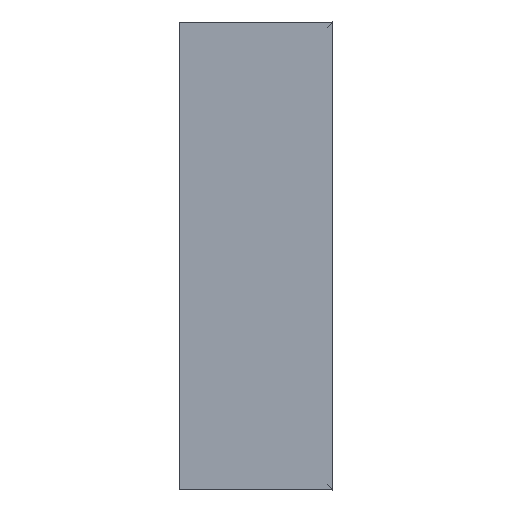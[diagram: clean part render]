
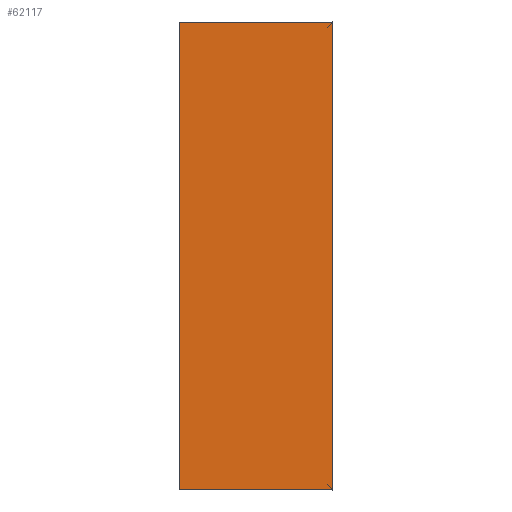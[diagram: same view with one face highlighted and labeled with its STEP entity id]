
A CAD part, left-side view. The second image highlights one B-rep face of the part: STEP entity #62117.
In plain terms, the highlighted planar face has unit normal (-1, 0, 0) as drawn and (0, 0, -1) by its records, which use the part's own axes.
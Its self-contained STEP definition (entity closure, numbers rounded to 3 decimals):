
#1599 = LINE ( 'NONE', #41944, #5716 ) ;
#3643 = CARTESIAN_POINT ( 'NONE',  ( 275., -90., 0. ) ) ;
#4259 = EDGE_LOOP ( 'NONE', ( #63215, #14743, #64414, #33469 ) ) ;
#5716 = VECTOR ( 'NONE', #13188, 1000. ) ;
#8828 = CARTESIAN_POINT ( 'NONE',  ( 0., 0., 0. ) ) ;
#10271 = DIRECTION ( 'NONE',  ( -1., 0., 0. ) ) ;
#11360 = CARTESIAN_POINT ( 'NONE',  ( -275., 90., 0. ) ) ;
#12487 = VERTEX_POINT ( 'NONE', #62779 ) ;
#13188 = DIRECTION ( 'NONE',  ( 0., -1., 0. ) ) ;
#14743 = ORIENTED_EDGE ( 'NONE', *, *, #23744, .F. ) ;
#20041 = FACE_OUTER_BOUND ( 'NONE', #4259, .T. ) ;
#20047 = CARTESIAN_POINT ( 'NONE',  ( -275., -90., 0. ) ) ;
#20717 = VERTEX_POINT ( 'NONE', #20047 ) ;
#21218 = DIRECTION ( 'NONE',  ( 0., 1., 0. ) ) ;
#22453 = VECTOR ( 'NONE', #21218, 1000. ) ;
#23744 = EDGE_CURVE ( 'NONE', #20717, #41834, #30032, .T. ) ;
#25647 = PLANE ( 'NONE',  #49647 ) ;
#29659 = CARTESIAN_POINT ( 'NONE',  ( -275., -90., 0. ) ) ;
#30032 = LINE ( 'NONE', #29659, #70598 ) ;
#33436 = LINE ( 'NONE', #11360, #53200 ) ;
#33469 = ORIENTED_EDGE ( 'NONE', *, *, #67617, .F. ) ;
#41834 = VERTEX_POINT ( 'NONE', #62374 ) ;
#41944 = CARTESIAN_POINT ( 'NONE',  ( -275., -90., 0. ) ) ;
#49647 = AXIS2_PLACEMENT_3D ( 'NONE', #8828, #70818, #65217 ) ;
#53200 = VECTOR ( 'NONE', #10271, 1000. ) ;
#55184 = LINE ( 'NONE', #3643, #22453 ) ;
#57291 = DIRECTION ( 'NONE',  ( 1., 0., 0. ) ) ;
#61895 = CARTESIAN_POINT ( 'NONE',  ( 275., 90., 0. ) ) ;
#62117 = ADVANCED_FACE ( 'NONE', ( #20041 ), #25647, .T. ) ;
#62374 = CARTESIAN_POINT ( 'NONE',  ( 275., -90., 0. ) ) ;
#62779 = CARTESIAN_POINT ( 'NONE',  ( -275., 90., 0. ) ) ;
#63215 = ORIENTED_EDGE ( 'NONE', *, *, #71686, .F. ) ;
#64414 = ORIENTED_EDGE ( 'NONE', *, *, #73675, .F. ) ;
#65217 = DIRECTION ( 'NONE',  ( -1., 0., 0. ) ) ;
#67617 = EDGE_CURVE ( 'NONE', #71421, #12487, #33436, .T. ) ;
#70598 = VECTOR ( 'NONE', #57291, 1000. ) ;
#70818 = DIRECTION ( 'NONE',  ( 0., 0., -1. ) ) ;
#71421 = VERTEX_POINT ( 'NONE', #61895 ) ;
#71686 = EDGE_CURVE ( 'NONE', #41834, #71421, #55184, .T. ) ;
#73675 = EDGE_CURVE ( 'NONE', #12487, #20717, #1599, .T. ) ;
